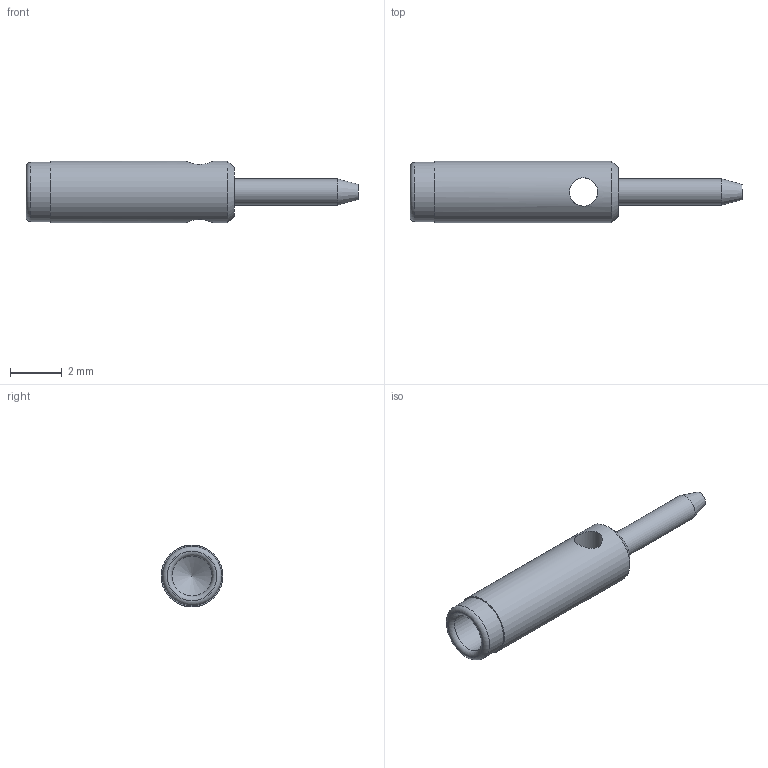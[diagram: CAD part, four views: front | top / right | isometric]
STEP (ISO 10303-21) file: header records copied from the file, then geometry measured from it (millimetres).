
FILE_DESCRIPTION(/* description */ (''),/* implementation_level */ '2;1');
FILE_NAME(/* name */ '\\Snap1\dwgs\Customer 3D Models\450\450-3302 Customer model.stp',/* time_stamp */ '2016-12-13T17:22:51+00:00',/* author */ ('Paul Karlsons'),/* organization */ (''),/* preprocessor_version */ 'ST-DEVELOPER v15.2',/* originating_system */ 'Autodesk Inventor 2014',/* authorisation */ '');
FILE_SCHEMA (('CONFIG_CONTROL_DESIGN'));
Length unit declared in the file: millimetre
Products named in the file (1): 450-3302 Customer model
Bounding box: 12.83 x 2.39 x 2.39 mm (x, y, z)
Volume: 26.6 mm3; surface area: 112.9 mm2
Topology: 1 solids, 1 shells, 14 faces, 25 edges, 15 vertices
Faces by surface type: cylinder 5, plane 4, cone 3, torus 2
Full cylindrical faces by diameter (mm): 1.016 x1, 1.092 x1, 1.55 x1, 2.286 x1, 2.388 x1
Entity records: 369 total; most frequent: CARTESIAN_POINT 109, DIRECTION 54, EDGE_LOOP 28, ORIENTED_EDGE 28, AXIS2_PLACEMENT_3D 27, FACE_BOUND 16, VERTEX_POINT 14, EDGE_CURVE 14
